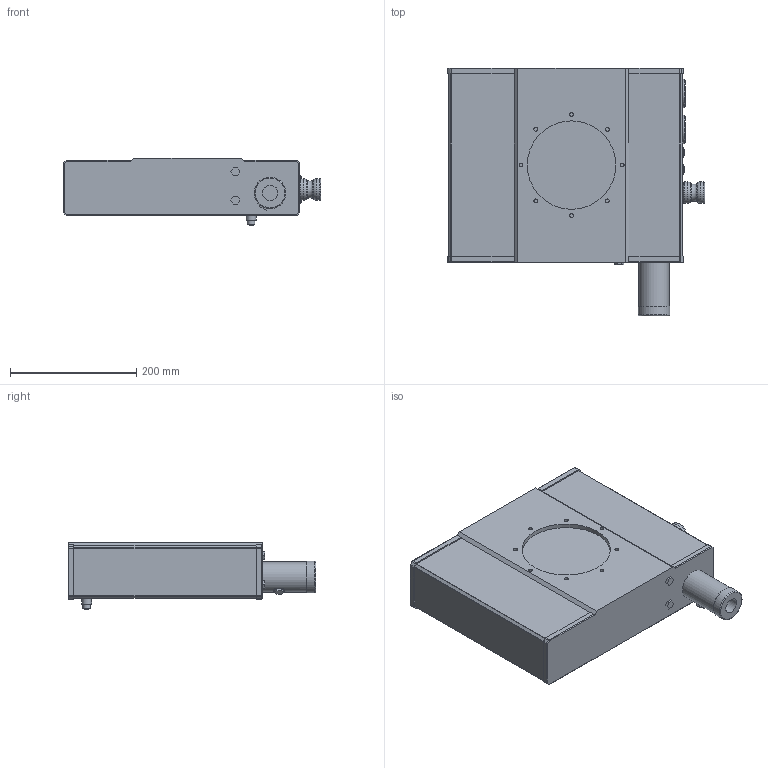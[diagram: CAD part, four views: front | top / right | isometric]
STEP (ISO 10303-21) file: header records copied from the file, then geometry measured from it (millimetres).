
FILE_DESCRIPTION((''),'2;1');
FILE_NAME('','2001-09-27T18:21:22+00:00',('Andreas Norlén'),( 'PIAB AB'),'','SolidEdge','');
FILE_SCHEMA(('CONFIG_CONTROL_DESIGN'));
Length unit declared in the file: millimetre
Bounding box: 407 x 392 x 107 mm (x, y, z)
Volume: 9611082.5 mm3; surface area: 384330.4 mm2
Topology: 1 solids, 1 shells, 197 faces, 447 edges, 283 vertices
Faces by surface type: plane 95, cylinder 70, torus 24, cone 8
Full cylindrical faces by diameter (mm): 6 x11, 10 x2, 12 x1, 15.5 x1, 16 x2, 24.5 x1, 32 x1, 33 x2, 34 x2, 44.843 x2, 48 x1, 50 x1, 140 x1
Entity records: 5420 total; most frequent: CARTESIAN_POINT 1024, DIRECTION 946, ORIENTED_EDGE 790, EDGE_CURVE 395, AXIS2_PLACEMENT_3D 366, VERTEX_POINT 273, EDGE_LOOP 270, LINE 214
